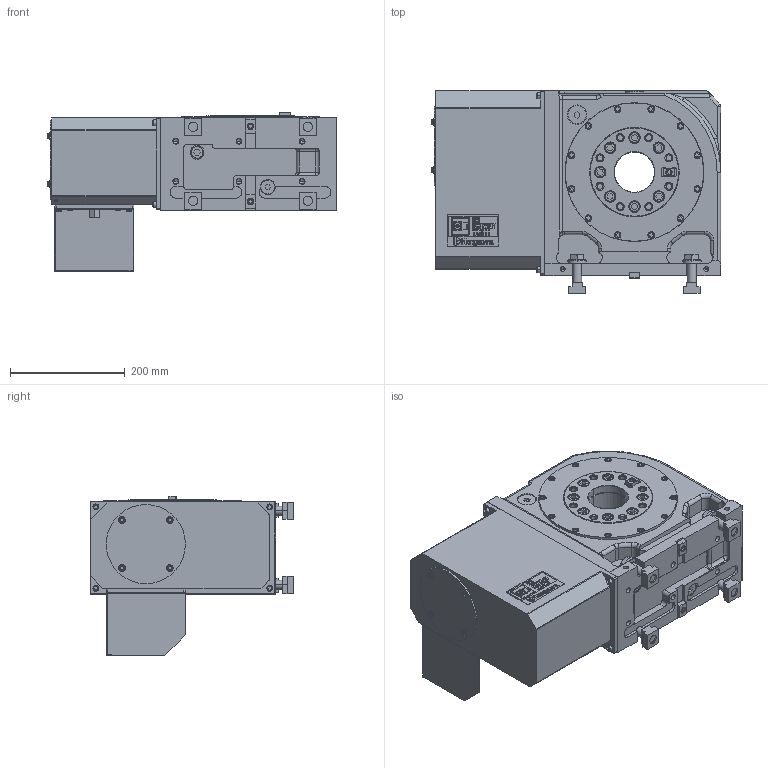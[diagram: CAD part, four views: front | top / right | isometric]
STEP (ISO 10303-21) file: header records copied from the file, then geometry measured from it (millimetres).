
FILE_DESCRIPTION (( 'STEP AP214' ), '1' );
FILE_NAME ('【掲載用】MK250付加軸左勝手.STEP', '2019-10-10T06:03:59', ( '' ), ( '' ), 'SwSTEP 2.0', 'SolidWorks 2017', '' );
FILE_SCHEMA (( 'AUTOMOTIVE_DESIGN' ));
Length unit declared in the file: millimetre
Products named in the file (15): キタガワシール; SMC KQ2E06-02; コネクタカバー（61E3639910）; コネクタプレート（61E4471133）MR200LAF04; 僇僶乕丂俹(61E4458433)MR250RAM01; モータケース(図番無し)MK250RAF_ﾃﾞﾌｫﾙﾄ<ﾏｼﾝ加工>; MK250_TABLE; ガイドブロック(61M4197783); MK250L_BASE_棉太倌<霞輭翇H>; 【掲載用】MK250付加軸左勝手; CLAMPING PARTS(61E4889120)MK250D2; T僗儘僢僩僫僢僩俿俶俵侾俉侾俇; B パーカ　M16×55; ワッシャ(61E4887570); MK250LAFホンタイ
Assembly tree (18 placements, depth 3):
  【掲載用】MK250付加軸左勝手
    MK250LAFホンタイ
      MK250L_BASE_棉太倌<霞輭翇H>
      ガイドブロック(61M4197783)  x2
      MK250_TABLE
      モータケース(図番無し)MK250RAF_ﾃﾞﾌｫﾙﾄ<ﾏｼﾝ加工>
      僇僶乕丂俹(61E4458433)MR250RAM01
      コネクタプレート（61E4471133）MR200LAF04
      コネクタカバー（61E3639910）
      SMC KQ2E06-02
      キタガワシール
    CLAMPING PARTS(61E4889120)MK250D2  x4
      ワッシャ(61E4887570)
      B パーカ　M16×55
      T僗儘僢僩僫僢僩俿俶俵侾俉侾俇
Bounding box: 503.7 x 353 x 277 mm (x, y, z)
Volume: 22088216.8 mm3; surface area: 1298605.5 mm2
Topology: 22 solids, 37 shells, 3494 faces, 8872 edges, 5677 vertices
Faces by surface type: plane 2298, cylinder 713, cone 367, torus 91, bspline 14, sphere 11
Entity records: 114368 total; most frequent: CARTESIAN_POINT 18343, ORIENTED_EDGE 16856, DIRECTION 16814, EDGE_CURVE 8428, LINE 6572, VECTOR 6572, VERTEX_POINT 5461, AXIS2_PLACEMENT_3D 5121
